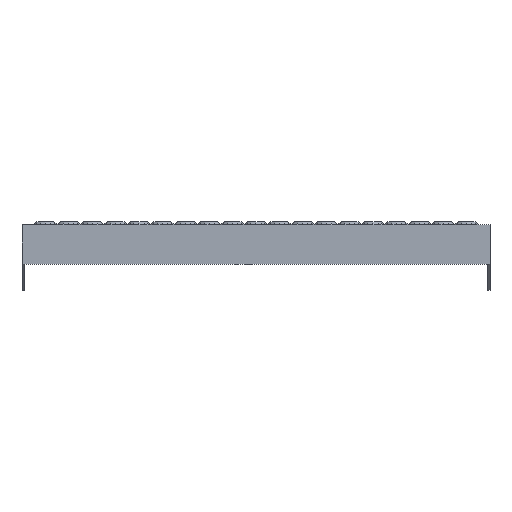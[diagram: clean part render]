
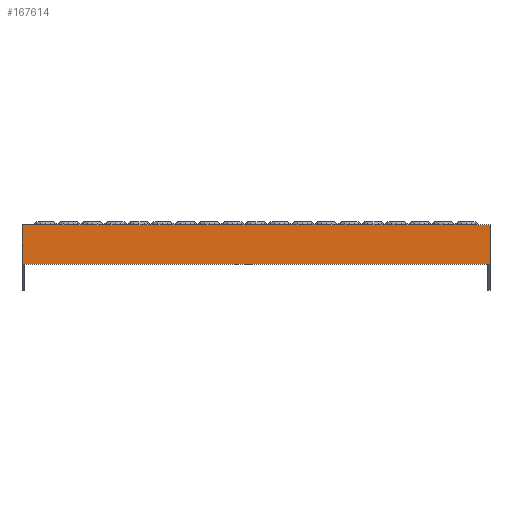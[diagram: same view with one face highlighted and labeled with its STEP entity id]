
A CAD part, front view. The second image highlights one B-rep face of the part: STEP entity #167614.
In plain terms, the highlighted planar face has unit normal (0, -1, 0).
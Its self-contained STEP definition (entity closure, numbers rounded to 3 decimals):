
#167614 = ADVANCED_FACE('',(#167615),#167629,.T.);
#167615 = FACE_BOUND('',#167616,.T.);
#167616 = EDGE_LOOP('',(#167617,#167640,#167656,#167672));
#167617 = ORIENTED_EDGE('',*,*,#167618,.T.);
#167618 = EDGE_CURVE('',#167619,#167621,#167623,.T.);
#167619 = VERTEX_POINT('',#167620);
#167620 = CARTESIAN_POINT('',(6500.,8795.,
    0.));
#167621 = VERTEX_POINT('',#167622);
#167622 = CARTESIAN_POINT('',(6000.,8795.,
    0.));
#167623 = SURFACE_CURVE('',#167624,(#167628),.PCURVE_S1.);
#167624 = LINE('',#167625,#167626);
#167625 = CARTESIAN_POINT('',(6500.,8795.,
    0.));
#167626 = VECTOR('',#167627,1.);
#167627 = DIRECTION('',(-1.,0.,0.));
#167628 = PCURVE('',#167629,#167634);
#167629 = PLANE('',#167630);
#167630 = AXIS2_PLACEMENT_3D('',#167631,#167632,#167633);
#167631 = CARTESIAN_POINT('',(6250.,8795.,
    -21.25));
#167632 = DIRECTION('',(0.,-1.,0.));
#167633 = DIRECTION('',(0.,0.,-1.));
#167634 = DEFINITIONAL_REPRESENTATION('',(#167635),#167639);
#167635 = LINE('',#167636,#167637);
#167636 = CARTESIAN_POINT('',(-21.25,250.));
#167637 = VECTOR('',#167638,1.);
#167638 = DIRECTION('',(0.,-1.));
#167639 = ( GEOMETRIC_REPRESENTATION_CONTEXT(2) 
PARAMETRIC_REPRESENTATION_CONTEXT() REPRESENTATION_CONTEXT('2D SPACE',''
  ) );
#167640 = ORIENTED_EDGE('',*,*,#167641,.T.);
#167641 = EDGE_CURVE('',#167621,#167642,#167644,.T.);
#167642 = VERTEX_POINT('',#167643);
#167643 = CARTESIAN_POINT('',(6000.,8795.,-42.5)
  );
#167644 = SURFACE_CURVE('',#167645,(#167649),.PCURVE_S1.);
#167645 = LINE('',#167646,#167647);
#167646 = CARTESIAN_POINT('',(6000.,8795.,
    0.));
#167647 = VECTOR('',#167648,1.);
#167648 = DIRECTION('',(0.,0.,-1.));
#167649 = PCURVE('',#167629,#167650);
#167650 = DEFINITIONAL_REPRESENTATION('',(#167651),#167655);
#167651 = LINE('',#167652,#167653);
#167652 = CARTESIAN_POINT('',(-21.25,-250.));
#167653 = VECTOR('',#167654,1.);
#167654 = DIRECTION('',(1.,0.));
#167655 = ( GEOMETRIC_REPRESENTATION_CONTEXT(2) 
PARAMETRIC_REPRESENTATION_CONTEXT() REPRESENTATION_CONTEXT('2D SPACE',''
  ) );
#167656 = ORIENTED_EDGE('',*,*,#167657,.T.);
#167657 = EDGE_CURVE('',#167642,#167658,#167660,.T.);
#167658 = VERTEX_POINT('',#167659);
#167659 = CARTESIAN_POINT('',(6500.,8795.,-42.5
    ));
#167660 = SURFACE_CURVE('',#167661,(#167665),.PCURVE_S1.);
#167661 = LINE('',#167662,#167663);
#167662 = CARTESIAN_POINT('',(6000.,8795.,-42.5)
  );
#167663 = VECTOR('',#167664,1.);
#167664 = DIRECTION('',(1.,0.,0.));
#167665 = PCURVE('',#167629,#167666);
#167666 = DEFINITIONAL_REPRESENTATION('',(#167667),#167671);
#167667 = LINE('',#167668,#167669);
#167668 = CARTESIAN_POINT('',(21.25,-250.));
#167669 = VECTOR('',#167670,1.);
#167670 = DIRECTION('',(0.,1.));
#167671 = ( GEOMETRIC_REPRESENTATION_CONTEXT(2) 
PARAMETRIC_REPRESENTATION_CONTEXT() REPRESENTATION_CONTEXT('2D SPACE',''
  ) );
#167672 = ORIENTED_EDGE('',*,*,#167673,.T.);
#167673 = EDGE_CURVE('',#167658,#167619,#167674,.T.);
#167674 = SURFACE_CURVE('',#167675,(#167679),.PCURVE_S1.);
#167675 = LINE('',#167676,#167677);
#167676 = CARTESIAN_POINT('',(6500.,8795.,-42.5
    ));
#167677 = VECTOR('',#167678,1.);
#167678 = DIRECTION('',(0.,0.,1.));
#167679 = PCURVE('',#167629,#167680);
#167680 = DEFINITIONAL_REPRESENTATION('',(#167681),#167685);
#167681 = LINE('',#167682,#167683);
#167682 = CARTESIAN_POINT('',(21.25,250.));
#167683 = VECTOR('',#167684,1.);
#167684 = DIRECTION('',(-1.,0.));
#167685 = ( GEOMETRIC_REPRESENTATION_CONTEXT(2) 
PARAMETRIC_REPRESENTATION_CONTEXT() REPRESENTATION_CONTEXT('2D SPACE',''
  ) );
